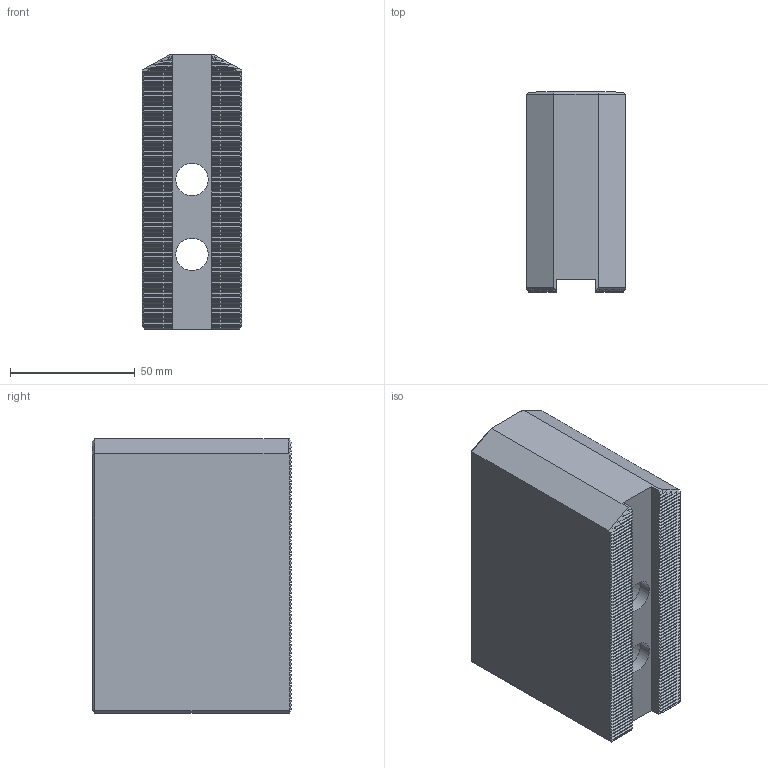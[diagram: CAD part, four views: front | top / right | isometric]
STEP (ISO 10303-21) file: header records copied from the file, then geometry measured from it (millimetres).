
FILE_DESCRIPTION(/* description */ (''),/* implementation_level */ '2;1');
FILE_NAME(/* name */ 'SC-10H80.stp',/* time_stamp */ '2024-09-11T14:47:35+03:00',/* author */ ('KanaanMD'),/* organization */ (''),/* preprocessor_version */ 'ST-DEVELOPER v19.2',/* originating_system */ 'Autodesk Inventor 2024',/* authorisation */ '');
FILE_SCHEMA (('AUTOMOTIVE_DESIGN { 1 0 10303 214 3 1 1 }'));
Length unit declared in the file: millimetre
Products named in the file (1): SC-10H80
Bounding box: 40 x 80 x 110 mm (x, y, z)
Volume: 295599 mm3; surface area: 42387.9 mm2
Topology: 1 solids, 1 shells, 610 faces, 1528 edges, 922 vertices
Faces by surface type: plane 604, cylinder 4, cone 2
Full cylindrical faces by diameter (mm): 13 x2, 19 x2
Entity records: 17495 total; most frequent: CARTESIAN_POINT 3061, ORIENTED_EDGE 3056, DIRECTION 2762, EDGE_CURVE 1528, LINE 1516, VECTOR 1516, VERTEX_POINT 922, AXIS2_PLACEMENT_3D 623
